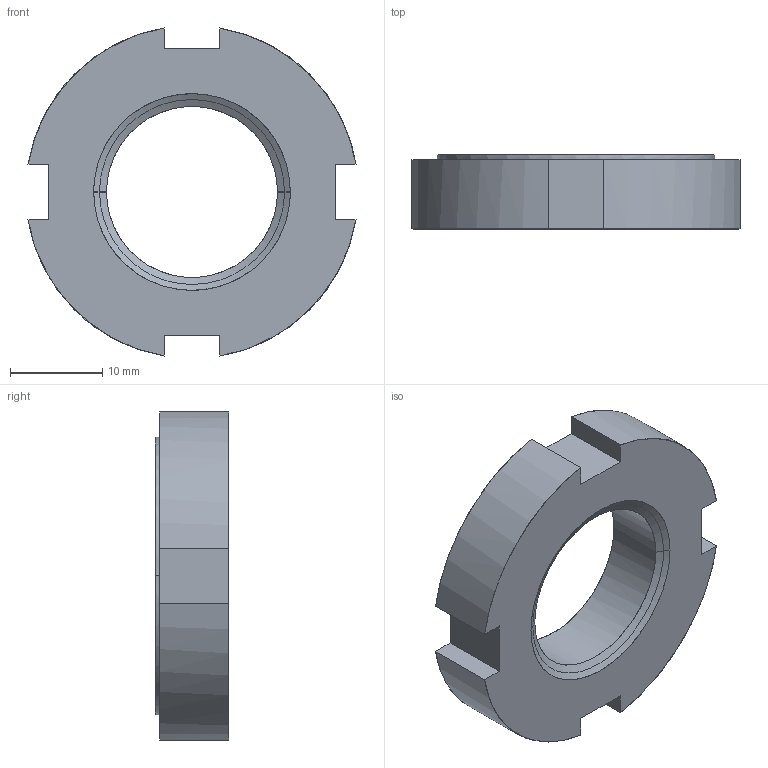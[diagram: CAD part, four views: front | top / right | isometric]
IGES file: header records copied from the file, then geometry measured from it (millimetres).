
Start section:  PTC IGES file: fn_202.igs
Global section: file name: fn_202.igs; native system: Pro/ENGINEER by Parametric Technology Corporation; preprocessor: 2010040; author: chad.steele; organization: Unknown; date: 20100922.140203; units: millimetre
Bounding box: 35.5 x 8 x 35.5 mm (x, y, z)
Surface area: 3266.9 mm2 (no closed solid volume)
Topology: 0 solids, 0 shells, 29 faces, 144 edges, 144 vertices
Faces by surface type: bspline 15, revolution 14
